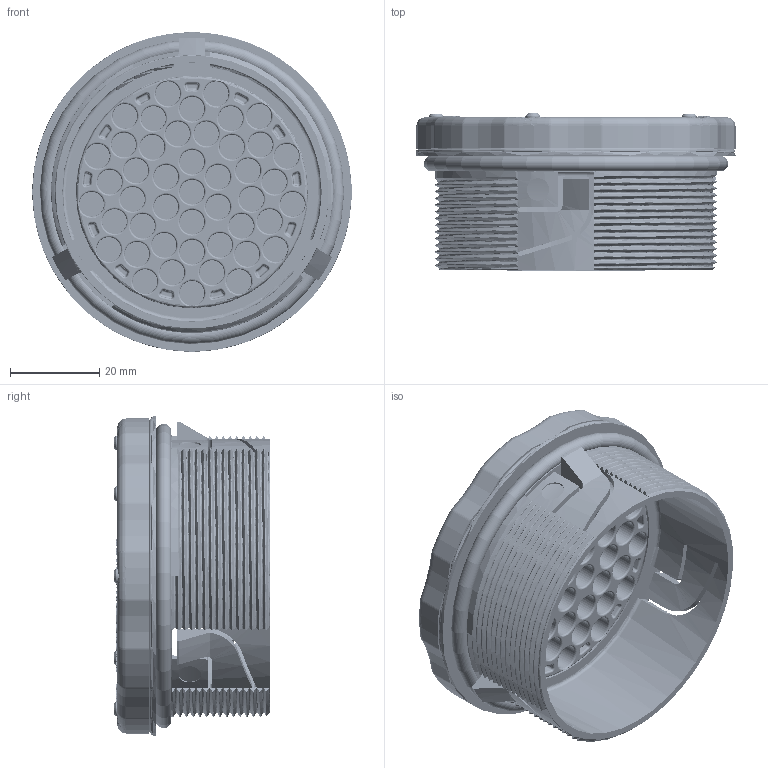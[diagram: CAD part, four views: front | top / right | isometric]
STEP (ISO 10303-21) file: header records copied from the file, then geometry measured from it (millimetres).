
FILE_DESCRIPTION(/* description */ (''),/* implementation_level */ '2;1');
FILE_NAME(/* name */ 'C:\SapWorkDir\Inventor\MP1\ConvertTempPath\87_16_121511_00_A_220622_KDP-R M63-46 ZSB.stp',/* time_stamp */ '2022-06-23T09:01:16+02:00',/* author */ ('BAUER'),/* organization */ (''),/* preprocessor_version */ 'ST-DEVELOPER v16.13',/* originating_system */ 'Autodesk Inventor 2018',/* authorisation */ '');
FILE_SCHEMA (('AUTOMOTIVE_DESIGN { 1 0 10303 214 3 1 1 }'));
Products named in the file (7): 121511; Gehäuse; 105776_MPS_3F1; 121503; 105777_MPS_3F1; 105778_MPS_3F1; 87.16.43.6
Assembly tree (6 placements, depth 2):
  121511
    Gehäuse
    105776_MPS_3F1
    121503
    105777_MPS_3F1
    105778_MPS_3F1
    87.16.43.6
Bounding box: 71.4 x 35 x 71.4 mm (x, y, z)
Volume: 41705.8 mm3; surface area: 52008.5 mm2
Topology: 6 solids, 6 shells, 2820 faces, 7128 edges, 4355 vertices
Faces by surface type: cylinder 970, plane 680, torus 641, bspline 342, sphere 162, cone 25
Full cylindrical faces by diameter (mm): 3.6 x46, 3.8 x11, 4 x5, 4.8 x3, 5 x51, 5.5 x46, 6 x46, 6.2 x5, 54.9 x2, 55.7 x2, 58 x1, 59 x3, 61.7 x1, 63 x1, 66.4 x1, 67.4 x1, 71.4 x1
Entity records: 91098 total; most frequent: CARTESIAN_POINT 24321, DIRECTION 14641, ORIENTED_EDGE 13236, EDGE_CURVE 6618, AXIS2_PLACEMENT_3D 6329, VERTEX_POINT 4275, CIRCLE 3789, EDGE_LOOP 3591
